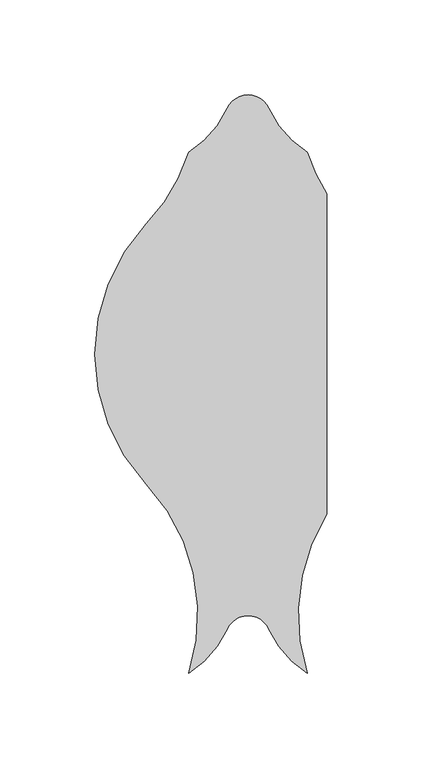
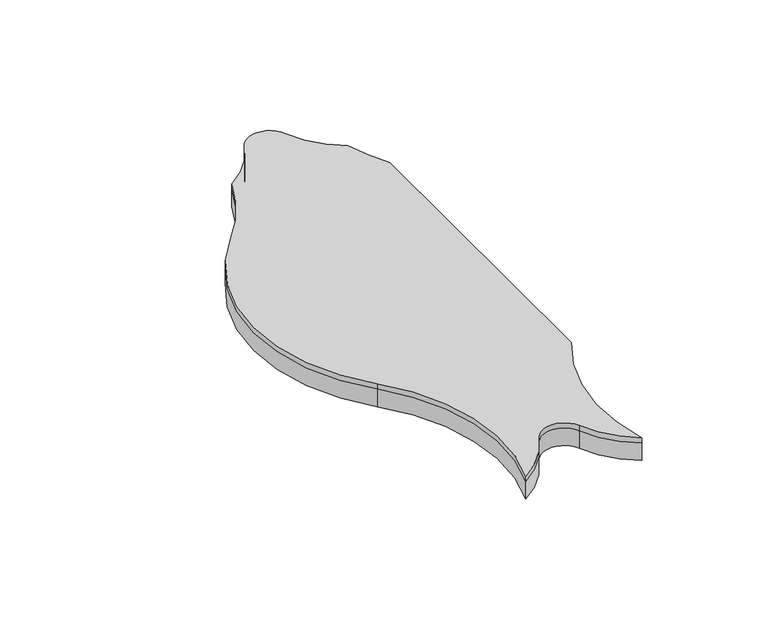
"""IFC4 building model written with IfcOpenShell, lengths in millimetres: proxy geometry, FilzFelt_Fish_Block : Fish Block."""

from ifc_helpers import new_model, si_unit, frame, origin, place, context, project, spatial, polyline, circle_curve, source, transform, mapped, element, save
from ifc_brep_helpers import plane_surface, cylinder_surface, revolved_surface, advanced_brep


def specialty_equipment_662c23e2(model_context):
    return source(origin(), model_context, "Body", "AdvancedBrep", [
        advanced_brep(
        [(31.2619065, -168.1141956, 10.0210937), (11.0103348, -145.0347036, 10.0210937), (-11.0103348, -145.0347036, 10.0210937), (-31.2619065, -168.1141956, 10.0210937), (-53.5486457, -68.6120133, 10.0210937), (-80.7142226, 0.0, 10.0210937), (-53.5486457, 68.6120133, 10.0210937), (-31.2619065, 106.3338576, 10.0210937), (-11.0103348, 129.4133496, 10.0210937), (11.0103348, 129.4133496, 10.0210937), (31.2619065, 106.3338576, 10.0210937), (41.4010094, 84.4515082, 10.0210937), (41.4010094, -84.4515082, 10.0210937), (31.2619065, 106.3338576, 12.9976563), (11.0103348, 129.4133496, 12.9976563), (0.0, 136.5838795, 12.9976563), (-11.0103348, 129.4133496, 12.9976563), (-31.2619065, 106.3338576, 12.9976563), (-53.5486457, 68.6120133, 12.9976563), (-80.7142226, 0.0, 12.9976563), (-53.5486457, -68.6120133, 12.9976563), (-31.2619065, -168.1141956, 12.9976563), (-11.0103348, -145.0347036, 12.9976563), (11.0103348, -145.0347036, 12.9976563), (31.2619065, -168.1141956, 12.9976563), (41.4010094, -84.4515082, 12.9976563), (41.4010094, 84.4515082, 12.9976563)],
        [
            (0, 1, circle_curve(frame((57.9263497, -124.2921115, 10.0210937), z_axis=(0.0, 0.0, -1.0), x_axis=(-1.0, 0.0, 0.0)), 51.2968574)),
            (1, 2, circle_curve(frame((0.0, -149.9026124, 10.0210937), z_axis=(0.0, 0.0, 1.0), x_axis=(-1.0, 0.0, 0.0)), 12.0384388)),
            (2, 3, circle_curve(frame((-57.9263497, -124.2921115, 10.0210937), z_axis=(0.0, 0.0, -1.0), x_axis=(-1.0, 0.0, 0.0)), 51.2968574)),
            (3, 4, circle_curve(frame((-126.6124317, -137.2240266, 10.0210937), z_axis=(0.0, 0.0, 1.0), x_axis=(-1.0, 0.0, 0.0)), 100.2293629)),
            (4, 5, circle_curve(frame((19.5151403, 0.0, 10.0210937), z_axis=(0.0, 0.0, -1.0), x_axis=(-1.0, 0.0, 0.0)), 100.2293629)),
            (5, 6, circle_curve(frame((19.5151403, 0.0, 10.0210937), z_axis=(0.0, 0.0, -1.0), x_axis=(-1.0, 0.0, 0.0)), 100.2293629)),
            (6, 7, circle_curve(frame((-126.6124317, 137.2240266, 10.0210937), z_axis=(0.0, 0.0, 1.0), x_axis=(-1.0, 0.0, 0.0)), 100.2293629)),
            (7, 8, circle_curve(frame((-57.9263497, 150.1559416, 10.0210937), z_axis=(0.0, 0.0, 1.0), x_axis=(-1.0, 0.0, 0.0)), 51.2968574)),
            (8, 9, circle_curve(frame((0.0, 124.5454408, 10.0210937), z_axis=(0.0, 0.0, -1.0), x_axis=(-1.0, 0.0, 0.0)), 12.0384388)),
            (9, 10, circle_curve(frame((57.9263497, 150.1559416, 10.0210937), z_axis=(0.0, 0.0, 1.0), x_axis=(-1.0, 0.0, 0.0)), 51.2968574)),
            (10, 11, circle_curve(frame((126.6124317, 137.2240266, 10.0210937), z_axis=(0.0, 0.0, 1.0), x_axis=(-1.0, 0.0, 0.0)), 100.2293629)),
            (11, 12),
            (12, 0, circle_curve(frame((126.6124317, -137.2240266, 10.0210937), z_axis=(0.0, 0.0, 1.0), x_axis=(-1.0, 0.0, 0.0)), 100.2293629)),
            (13, 14, circle_curve(frame((57.9263497, 150.1559416, 12.9976563), z_axis=(0.0, 0.0, -1.0), x_axis=(-1.0, 0.0, 0.0)), 51.2968574)),
            (14, 15, circle_curve(frame((0.0, 124.5454408, 12.9976563), z_axis=(0.0, 0.0, 1.0), x_axis=(-1.0, 0.0, 0.0)), 12.0384388)),
            (15, 16, circle_curve(frame((0.0, 124.5454408, 12.9976563), z_axis=(0.0, 0.0, 1.0), x_axis=(-1.0, 0.0, 0.0)), 12.0384388)),
            (16, 17, circle_curve(frame((-57.9263497, 150.1559416, 12.9976563), z_axis=(0.0, 0.0, -1.0), x_axis=(-1.0, 0.0, 0.0)), 51.2968574)),
            (17, 18, circle_curve(frame((-126.6124317, 137.2240266, 12.9976563), z_axis=(0.0, 0.0, -1.0), x_axis=(-1.0, 0.0, 0.0)), 100.2293629)),
            (18, 19, circle_curve(frame((19.5151403, 0.0, 12.9976563), z_axis=(0.0, 0.0, 1.0), x_axis=(-1.0, 0.0, 0.0)), 100.2293629)),
            (19, 20, circle_curve(frame((19.5151403, 0.0, 12.9976563), z_axis=(0.0, 0.0, 1.0), x_axis=(-1.0, 0.0, 0.0)), 100.2293629)),
            (20, 21, circle_curve(frame((-126.6124317, -137.2240266, 12.9976563), z_axis=(0.0, 0.0, -1.0), x_axis=(-1.0, 0.0, 0.0)), 100.2293629)),
            (21, 22, circle_curve(frame((-57.9263497, -124.2921115, 12.9976563), z_axis=(0.0, 0.0, 1.0), x_axis=(-1.0, 0.0, 0.0)), 51.2968574)),
            (22, 23, circle_curve(frame((0.0, -149.9026124, 12.9976563), z_axis=(0.0, 0.0, -1.0), x_axis=(-1.0, 0.0, 0.0)), 12.0384388)),
            (23, 24, circle_curve(frame((57.9263497, -124.2921115, 12.9976563), z_axis=(0.0, 0.0, 1.0), x_axis=(-1.0, 0.0, 0.0)), 51.2968574)),
            (24, 25, circle_curve(frame((126.6124317, -137.2240266, 12.9976563), z_axis=(0.0, 0.0, -1.0), x_axis=(-1.0, 0.0, 0.0)), 100.2293629)),
            (25, 26),
            (26, 13, circle_curve(frame((126.6124317, 137.2240266, 12.9976563), z_axis=(0.0, 0.0, -1.0), x_axis=(-1.0, 0.0, 0.0)), 100.2293629)),
            (24, 0),
            (12, 25),
            (23, 1),
            (22, 2),
            (21, 3),
            (20, 4),
            (18, 6),
            (17, 7),
            (16, 8),
            (14, 9),
            (13, 10),
            (26, 11),
        ],
        [
            plane_surface(frame((0.0, 0.0, 10.0210937), z_axis=(0.0, 0.0, -1.0), x_axis=(0.0, -1.0, 0.0))),
            plane_surface(frame((0.0, 0.0, 12.9976563), z_axis=(0.0, 0.0, 1.0), x_axis=(0.0, -1.0, 0.0))),
            revolved_surface(polyline([(26.383068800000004, -137.2240266, 12.9976563), (26.383068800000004, -137.2240266, 10.0210937)]), (126.6124317, -137.2240266, 10.0210937), (0.0, 0.0, 1.0)),
            cylinder_surface(frame((57.9263497, -124.2921115, 10.0210937), z_axis=(0.0, 0.0, -1.0), x_axis=(-1.0, 0.0, 0.0)), 51.2968574),
            revolved_surface(polyline([(-12.0384388, -149.9026124, 12.9976563), (-12.0384388, -149.9026124, 10.0210937)]), (0.0, -149.9026124, 10.0210937), (0.0, 0.0, 1.0)),
            cylinder_surface(frame((-57.9263497, -124.2921115, 10.0210937), z_axis=(0.0, 0.0, -1.0), x_axis=(-1.0, 0.0, 0.0)), 51.2968574),
            revolved_surface(polyline([(-226.84179460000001, -137.2240266, 12.9976563), (-226.84179460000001, -137.2240266, 10.0210937)]), (-126.6124317, -137.2240266, 10.0210937), (0.0, 0.0, 1.0)),
            cylinder_surface(frame((19.5151403, 0.0, 10.0210937), z_axis=(0.0, 0.0, -1.0), x_axis=(-1.0, 0.0, 0.0)), 100.2293629),
            revolved_surface(polyline([(-226.84179460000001, 137.2240266, 12.9976563), (-226.84179460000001, 137.2240266, 10.0210937)]), (-126.6124317, 137.2240266, 10.0210937), (0.0, 0.0, 1.0)),
            revolved_surface(polyline([(-109.2232071, 150.1559416, 12.9976563), (-109.2232071, 150.1559416, 10.0210937)]), (-57.9263497, 150.1559416, 10.0210937), (0.0, 0.0, 1.0)),
            cylinder_surface(frame((0.0, 124.5454408, 10.0210937), z_axis=(0.0, 0.0, -1.0), x_axis=(-1.0, 0.0, 0.0)), 12.0384388),
            revolved_surface(polyline([(6.629492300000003, 150.1559416, 12.9976563), (6.629492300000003, 150.1559416, 10.0210937)]), (57.9263497, 150.1559416, 10.0210937), (0.0, 0.0, 1.0)),
            revolved_surface(polyline([(26.383068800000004, 137.2240266, 12.9976563), (26.383068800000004, 137.2240266, 10.0210937)]), (126.6124317, 137.2240266, 10.0210937), (0.0, 0.0, 1.0)),
            plane_surface(frame((41.4010094, -199.8641956, 12.9976562), z_axis=(1.0, 0.0, 0.0), x_axis=(0.0, 0.0, 1.0))),
        ],
        [
            (0, [[1, 2, 3, 4, 5, 6, 7, 8, 9, 10, 11, 12, 13]]),
            (1, [[14, 15, 16, 17, 18, 19, 20, 21, 22, 23, 24, 25, 26, 27]]),
            (2, [[28, -13, 29, -25]]),
            (3, [[-1, -28, -24, 30]]),
            (4, [[-2, -30, -23, 31]]),
            (5, [[-3, -31, -22, 32]]),
            (6, [[-4, -32, -21, 33]]),
            (7, [[-33, -20, -19, 34, -6, -5]]),
            (8, [[-7, -34, -18, 35]]),
            (9, [[-8, -35, -17, 36]]),
            (10, [[-9, -36, -16, -15, 37]]),
            (11, [[-10, -37, -14, 38]]),
            (12, [[-38, -27, 39, -11]]),
            (13, [[-12, -39, -26, -29]]),
        ],
    ),
        advanced_brep(
        [(31.2619065, -168.1141956, 0.0), (11.0103348, -145.0347036, 0.0), (-11.0103348, -145.0347036, 0.0), (-31.2619065, -168.1141956, 0.0), (-53.5486457, -68.6120133, 0.0), (-80.7142226, 0.0, 0.0), (-53.5486457, 68.6120133, 0.0), (-31.2619065, 106.3338576, 0.0), (-11.0103348, 129.4133496, 0.0), (0.0, 136.5838795, 0.0), (11.0103348, 129.4133496, 0.0), (31.2619065, 106.3338576, 0.0), (41.4010094, 84.4515082, 0.0), (41.4010094, -84.4515082, 0.0), (31.2619065, 106.3338576, 10.0210937), (11.0103348, 129.4133496, 10.0210937), (-11.0103348, 129.4133496, 10.0210937), (-31.2619065, 106.3338576, 10.0210937), (-53.5486457, 68.6120133, 10.0210937), (-80.7142226, 0.0, 10.0210937), (-53.5486457, -68.6120133, 10.0210937), (-31.2619065, -168.1141956, 10.0210937), (-11.0103348, -145.0347036, 10.0210937), (11.0103348, -145.0347036, 10.0210937), (31.2619065, -168.1141956, 10.0210937), (41.4010094, -84.4515082, 10.0210937), (41.4010094, 84.4515082, 10.0210937)],
        [
            (0, 1, circle_curve(frame((57.9263497, -124.2921115, 0.0), z_axis=(0.0, 0.0, -1.0), x_axis=(-1.0, 0.0, 0.0)), 51.2968574)),
            (1, 2, circle_curve(frame((0.0, -149.9026124, 0.0), z_axis=(0.0, 0.0, 1.0), x_axis=(-1.0, 0.0, 0.0)), 12.0384388)),
            (2, 3, circle_curve(frame((-57.9263497, -124.2921115, 0.0), z_axis=(0.0, 0.0, -1.0), x_axis=(-1.0, 0.0, 0.0)), 51.2968574)),
            (3, 4, circle_curve(frame((-126.6124317, -137.2240266, 0.0), z_axis=(0.0, 0.0, 1.0), x_axis=(-1.0, 0.0, 0.0)), 100.2293629)),
            (4, 5, circle_curve(frame((19.5151403, 0.0, 0.0), z_axis=(0.0, 0.0, -1.0), x_axis=(-1.0, 0.0, 0.0)), 100.2293629)),
            (5, 6, circle_curve(frame((19.5151403, 0.0, 0.0), z_axis=(0.0, 0.0, -1.0), x_axis=(-1.0, 0.0, 0.0)), 100.2293629)),
            (6, 7, circle_curve(frame((-126.6124317, 137.2240266, 0.0), z_axis=(0.0, 0.0, 1.0), x_axis=(-1.0, 0.0, 0.0)), 100.2293629)),
            (7, 8, circle_curve(frame((-57.9263497, 150.1559416, 0.0), z_axis=(0.0, 0.0, 1.0), x_axis=(-1.0, 0.0, 0.0)), 51.2968574)),
            (8, 9, circle_curve(frame((0.0, 124.5454408, 0.0), z_axis=(0.0, 0.0, -1.0), x_axis=(-1.0, 0.0, 0.0)), 12.0384388)),
            (9, 10, circle_curve(frame((0.0, 124.5454408, 0.0), z_axis=(0.0, 0.0, -1.0), x_axis=(-1.0, 0.0, 0.0)), 12.0384388)),
            (10, 11, circle_curve(frame((57.9263497, 150.1559416, 0.0), z_axis=(0.0, 0.0, 1.0), x_axis=(-1.0, 0.0, 0.0)), 51.2968574)),
            (11, 12, circle_curve(frame((126.6124317, 137.2240266, 0.0), z_axis=(0.0, 0.0, 1.0), x_axis=(-1.0, 0.0, 0.0)), 100.2293629)),
            (12, 13),
            (13, 0, circle_curve(frame((126.6124317, -137.2240266, 0.0), z_axis=(0.0, 0.0, 1.0), x_axis=(-1.0, 0.0, 0.0)), 100.2293629)),
            (14, 15, circle_curve(frame((57.9263497, 150.1559416, 10.0210937), z_axis=(0.0, 0.0, -1.0), x_axis=(-1.0, 0.0, 0.0)), 51.2968574)),
            (15, 16, circle_curve(frame((0.0, 124.5454408, 10.0210937), z_axis=(0.0, 0.0, 1.0), x_axis=(-1.0, 0.0, 0.0)), 12.0384388)),
            (16, 17, circle_curve(frame((-57.9263497, 150.1559416, 10.0210937), z_axis=(0.0, 0.0, -1.0), x_axis=(-1.0, 0.0, 0.0)), 51.2968574)),
            (17, 18, circle_curve(frame((-126.6124317, 137.2240266, 10.0210937), z_axis=(0.0, 0.0, -1.0), x_axis=(-1.0, 0.0, 0.0)), 100.2293629)),
            (18, 19, circle_curve(frame((19.5151403, 0.0, 10.0210937), z_axis=(0.0, 0.0, 1.0), x_axis=(-1.0, 0.0, 0.0)), 100.2293629)),
            (19, 20, circle_curve(frame((19.5151403, 0.0, 10.0210937), z_axis=(0.0, 0.0, 1.0), x_axis=(-1.0, 0.0, 0.0)), 100.2293629)),
            (20, 21, circle_curve(frame((-126.6124317, -137.2240266, 10.0210937), z_axis=(0.0, 0.0, -1.0), x_axis=(-1.0, 0.0, 0.0)), 100.2293629)),
            (21, 22, circle_curve(frame((-57.9263497, -124.2921115, 10.0210937), z_axis=(0.0, 0.0, 1.0), x_axis=(-1.0, 0.0, 0.0)), 51.2968574)),
            (22, 23, circle_curve(frame((0.0, -149.9026124, 10.0210937), z_axis=(0.0, 0.0, -1.0), x_axis=(-1.0, 0.0, 0.0)), 12.0384388)),
            (23, 24, circle_curve(frame((57.9263497, -124.2921115, 10.0210937), z_axis=(0.0, 0.0, 1.0), x_axis=(-1.0, 0.0, 0.0)), 51.2968574)),
            (24, 25, circle_curve(frame((126.6124317, -137.2240266, 10.0210937), z_axis=(0.0, 0.0, -1.0), x_axis=(-1.0, 0.0, 0.0)), 100.2293629)),
            (25, 26),
            (26, 14, circle_curve(frame((126.6124317, 137.2240266, 10.0210937), z_axis=(0.0, 0.0, -1.0), x_axis=(-1.0, 0.0, 0.0)), 100.2293629)),
            (0, 24),
            (23, 1),
            (22, 2),
            (21, 3),
            (20, 4),
            (18, 6),
            (17, 7),
            (16, 8),
            (15, 10),
            (14, 11),
            (26, 12),
            (13, 25),
        ],
        [
            plane_surface(frame((0.0, 0.0, 0.0), z_axis=(0.0, 0.0, -1.0), x_axis=(0.0, -1.0, 0.0))),
            plane_surface(frame((0.0, 0.0, 10.0210937), z_axis=(0.0, 0.0, 1.0), x_axis=(0.0, -1.0, 0.0))),
            cylinder_surface(frame((57.9263497, -124.2921115, 0.0), z_axis=(0.0, 0.0, -1.0), x_axis=(-1.0, 0.0, 0.0)), 51.2968574),
            revolved_surface(polyline([(-12.0384388, -149.9026124, 10.0210937), (-12.0384388, -149.9026124, 0.0)]), (0.0, -149.9026124, 0.0), (0.0, 0.0, 1.0)),
            cylinder_surface(frame((-57.9263497, -124.2921115, 0.0), z_axis=(0.0, 0.0, -1.0), x_axis=(-1.0, 0.0, 0.0)), 51.2968574),
            revolved_surface(polyline([(-226.84179460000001, -137.2240266, 10.0210937), (-226.84179460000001, -137.2240266, 0.0)]), (-126.6124317, -137.2240266, 0.0), (0.0, 0.0, 1.0)),
            cylinder_surface(frame((19.5151403, 0.0, 0.0), z_axis=(0.0, 0.0, -1.0), x_axis=(-1.0, 0.0, 0.0)), 100.2293629),
            revolved_surface(polyline([(-226.84179460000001, 137.2240266, 10.0210937), (-226.84179460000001, 137.2240266, 0.0)]), (-126.6124317, 137.2240266, 0.0), (0.0, 0.0, 1.0)),
            revolved_surface(polyline([(-109.2232071, 150.1559416, 10.0210937), (-109.2232071, 150.1559416, 0.0)]), (-57.9263497, 150.1559416, 0.0), (0.0, 0.0, 1.0)),
            cylinder_surface(frame((0.0, 124.5454408, 0.0), z_axis=(0.0, 0.0, -1.0), x_axis=(-1.0, 0.0, 0.0)), 12.0384388),
            revolved_surface(polyline([(6.629492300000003, 150.1559416, 10.0210937), (6.629492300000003, 150.1559416, 0.0)]), (57.9263497, 150.1559416, 0.0), (0.0, 0.0, 1.0)),
            revolved_surface(polyline([(26.383068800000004, 137.2240266, 10.0210937), (26.383068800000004, 137.2240266, 0.0)]), (126.6124317, 137.2240266, 0.0), (0.0, 0.0, 1.0)),
            revolved_surface(polyline([(26.383068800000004, -137.2240266, 10.0210937), (26.383068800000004, -137.2240266, 0.0)]), (126.6124317, -137.2240266, 0.0), (0.0, 0.0, 1.0)),
            plane_surface(frame((41.4010094, -199.8641956, 12.9976562), z_axis=(1.0, 0.0, 0.0), x_axis=(0.0, 0.0, 1.0))),
        ],
        [
            (0, [[1, 2, 3, 4, 5, 6, 7, 8, 9, 10, 11, 12, 13, 14]]),
            (1, [[15, 16, 17, 18, 19, 20, 21, 22, 23, 24, 25, 26, 27]]),
            (2, [[-1, 28, -24, 29]]),
            (3, [[-2, -29, -23, 30]]),
            (4, [[-3, -30, -22, 31]]),
            (5, [[-4, -31, -21, 32]]),
            (6, [[-32, -20, -19, 33, -6, -5]]),
            (7, [[-7, -33, -18, 34]]),
            (8, [[-8, -34, -17, 35]]),
            (9, [[-16, 36, -10, -9, -35]]),
            (10, [[-11, -36, -15, 37]]),
            (11, [[-37, -27, 38, -12]]),
            (12, [[-28, -14, 39, -25]]),
            (13, [[-13, -38, -26, -39]]),
        ],
    ),
    ])


if __name__ == "__main__":
    model = new_model("IFC4")
    model_context = context("Model", 3, world=origin())
    ifc_project = project(units=[si_unit("LENGTHUNIT", "METRE", prefix="MILLI")], contexts=[model_context])
    site = spatial("IfcSite", under=ifc_project)
    building = spatial("IfcBuilding", under=site)
    placement = place(None, origin())
    specialty_equipment_shape = specialty_equipment_662c23e2(model_context)
    element("IfcBuildingElementProxy", 1, Name="FilzFelt_Fish_Block : Fish Block", ObjectType="FilzFelt_Fish_Block : Fish Block", at=placement, inside=building, context=model_context, shape_type="MappedRepresentation", body=[
        mapped(specialty_equipment_shape, transform((0.0, 0.0, 0.0), x_axis=(1.0, 0.0, 0.0), y_axis=(0.0, 1.0, 0.0), z_axis=(0.0, 0.0, 1.0))),
    ])
    save(model, "model.ifc")
